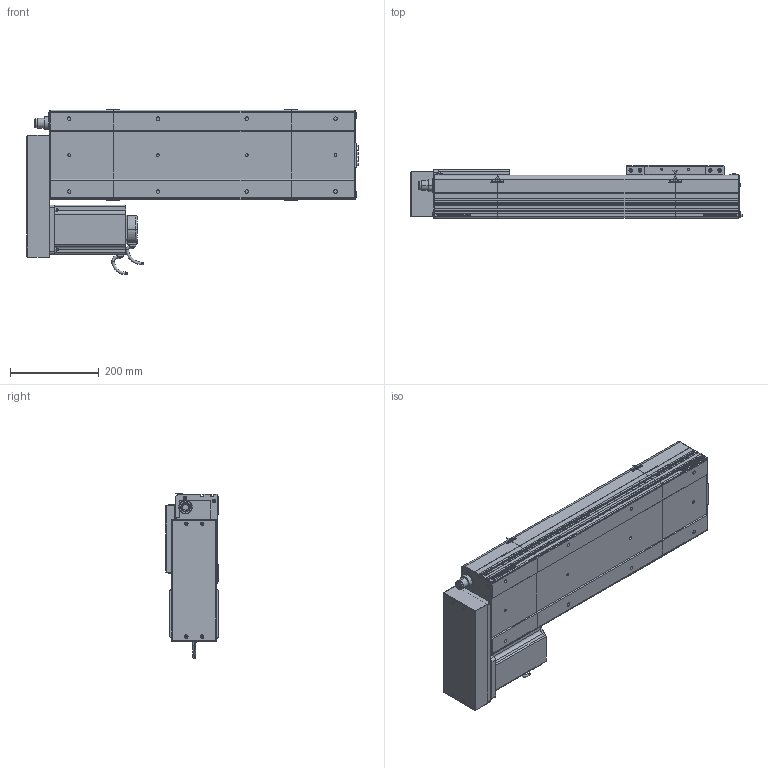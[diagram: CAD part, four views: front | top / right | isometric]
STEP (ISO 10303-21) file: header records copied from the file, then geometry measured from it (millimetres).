
FILE_DESCRIPTION (( 'STEP AP214' ), '1' );
FILE_NAME ('D20 CSH BR S400.STEP', '2010-06-30T07:57:27', ( 'Conseil Régional Haute-Normandie' ), ( 'Conseil Régional Haute-Normandie' ), 'SwSTEP 2.0', 'SolidWorks 2010', '' );
FILE_SCHEMA (( 'AUTOMOTIVE_DESIGN' ));
Length unit declared in the file: millimetre
Products named in the file (31): Corp D20 S400_Default; Glissiere_Default; Corp S400_Default; Couvercle S400_Default; Chariot D20_Default; Support Chariot D20_Default; Head D20 BR_Default; Cache Moteur BR D20_Default; vis M5 L30_Default; clavette; Conecteur_Default; ecrou_Default; vis M5 L15_Default; vis M5 L47_Default; Conecteur2_Default; codeur 110BLDC170A-630x; corps 110BLDC170A-630x; avant 110BLDC170A-630x; Moteur motionking 110BLDC170A-640x; Plaque de Bout Head BR D20_Default; Couvercle Head BR_Default; Corp Head BR D20_Default; Support moteur BR D20_Default; Plaque De Serrage Head BR D20_Default; Corp Tail D20_Default; Tail D20_Default; D20 CSH BR S400; Plaque De Serrage D20_Default; Plaque de Bout Tail D20_Default; Couvercle_Default
Assembly tree (60 placements, depth 4):
  D20 CSH BR S400
    Chariot D20_Default
      Support Chariot D20_Default
      vis M5 L15_Default  x8
      Chariot D20_Default
      Glissiere_Default
    Tail D20_Default
      Couvercle_Default
      Plaque De Serrage D20_Default
      vis M5 L15_Default  x6
      Plaque de Bout Tail D20_Default
      Corp Tail D20_Default
    Corp D20 S400_Default
      Corp S400_Default
      Couvercle S400_Default
    Head D20 BR_Default
      ecrou_Default  x4
      Plaque de Bout Head BR D20_Default
      vis M5 L15_Default  x8
      vis M5 L47_Default  x4
      vis M5 L30_Default  x4
      Plaque De Serrage Head BR D20_Default
      Moteur motionking 110BLDC170A-640x
        Conecteur_Default
        corps 110BLDC170A-630x
        codeur 110BLDC170A-630x
        avant 110BLDC170A-630x
        Conecteur2_Default
        clavette
      Support moteur BR D20_Default
      Corp Head BR D20_Default
      Couvercle Head BR_Default
      Cache Moteur BR D20_Default
Bounding box: 747.7 x 120 x 372 mm (x, y, z)
Volume: 7386499.1 mm3; surface area: 1426223.3 mm2
Topology: 97 solids, 97 shells, 3538 faces, 8897 edges, 5793 vertices
Faces by surface type: plane 1997, bspline 806, cylinder 589, torus 83, cone 63
Entity records: 156041 total; most frequent: CARTESIAN_POINT 81732, ORIENTED_EDGE 14742, DIRECTION 10959, EDGE_CURVE 7371, VERTEX_POINT 4881, VECTOR 4847, LINE 4847, EDGE_LOOP 3132
